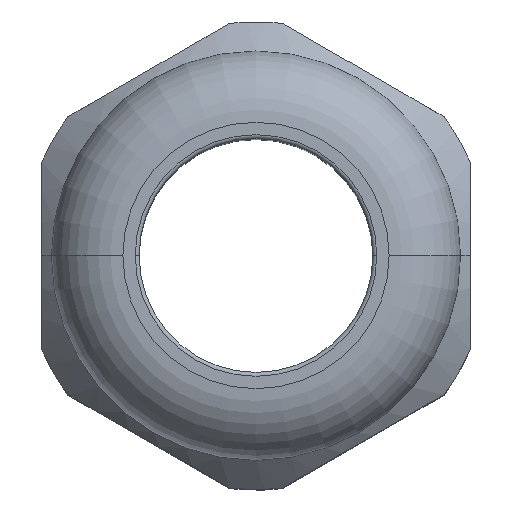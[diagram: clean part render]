
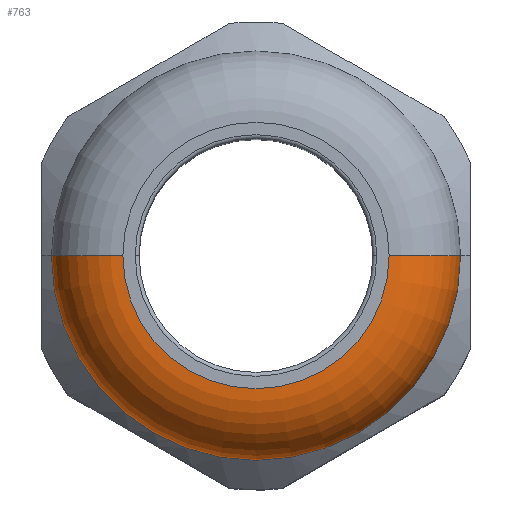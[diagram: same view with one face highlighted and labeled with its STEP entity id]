
A CAD part, top view. The second image highlights one B-rep face of the part: STEP entity #763.
In plain terms, the highlighted toroidal (fillet/blend) face has major radius 10.25 mm and minor radius 5.5 mm.
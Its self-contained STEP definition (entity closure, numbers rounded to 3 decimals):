
#178 = EDGE_CURVE ( 'NONE', #413, #208, #1253, .T. ) ;
#189 = EDGE_CURVE ( 'NONE', #364, #274, #1271, .T. ) ;
#208 = VERTEX_POINT ( 'NONE', #1279 ) ;
#274 = VERTEX_POINT ( 'NONE', #1332 ) ;
#364 = VERTEX_POINT ( 'NONE', #1333 ) ;
#413 = VERTEX_POINT ( 'NONE', #1351 ) ;
#705 = ORIENTED_EDGE ( 'NONE', *, *, #756, .F. ) ;
#735 = ORIENTED_EDGE ( 'NONE', *, *, #736, .T. ) ;
#736 = EDGE_CURVE ( 'NONE', #364, #413, #1428, .T. ) ;
#737 = ORIENTED_EDGE ( 'NONE', *, *, #178, .T. ) ;
#756 = EDGE_CURVE ( 'NONE', #274, #208, #1532, .T. ) ;
#763 = ADVANCED_FACE ( 'NONE', ( #1568 ), #1565, .T. ) ;
#764 = EDGE_LOOP ( 'NONE', ( #765, #735, #737, #705 ) ) ;
#765 = ORIENTED_EDGE ( 'NONE', *, *, #189, .F. ) ;
#1239 = DIRECTION ( 'NONE',  ( 0., 1., 0. ) ) ;
#1240 = CARTESIAN_POINT ( 'NONE',  ( 10.25, 0., 39.5 ) ) ;
#1241 = AXIS2_PLACEMENT_3D ( 'NONE', #1240, #1239, #1308 ) ;
#1247 = CARTESIAN_POINT ( 'NONE',  ( -10.25, 0., 39.5 ) ) ;
#1248 = AXIS2_PLACEMENT_3D ( 'NONE', #1247, #1262, #1261 ) ;
#1253 = CIRCLE ( 'NONE', #1248, 5.5 ) ;
#1261 = DIRECTION ( 'NONE',  ( 0., 0., -1. ) ) ;
#1262 = DIRECTION ( 'NONE',  ( 0., -1., 0. ) ) ;
#1271 = CIRCLE ( 'NONE', #1241, 5.5 ) ;
#1279 = CARTESIAN_POINT ( 'NONE',  ( -15.75, 0., 39.5 ) ) ;
#1308 = DIRECTION ( 'NONE',  ( -1., 0., 0. ) ) ;
#1332 = CARTESIAN_POINT ( 'NONE',  ( 15.75, 0., 39.5 ) ) ;
#1333 = CARTESIAN_POINT ( 'NONE',  ( 10.25, 0., 45. ) ) ;
#1351 = CARTESIAN_POINT ( 'NONE',  ( -10.25, 0., 45. ) ) ;
#1428 = CIRCLE ( 'NONE', #1477, 10.25 ) ;
#1459 = DIRECTION ( 'NONE',  ( -1., 0., 0. ) ) ;
#1460 = DIRECTION ( 'NONE',  ( 0., 0., -1. ) ) ;
#1470 = CARTESIAN_POINT ( 'NONE',  ( 0., 0., 45. ) ) ;
#1477 = AXIS2_PLACEMENT_3D ( 'NONE', #1470, #1460, #1459 ) ;
#1524 = DIRECTION ( 'NONE',  ( -1., 0., 0. ) ) ;
#1525 = DIRECTION ( 'NONE',  ( 0., 0., -1. ) ) ;
#1526 = CARTESIAN_POINT ( 'NONE',  ( 0., 0., 39.5 ) ) ;
#1527 = AXIS2_PLACEMENT_3D ( 'NONE', #1526, #1525, #1524 ) ;
#1532 = CIRCLE ( 'NONE', #1527, 15.75 ) ;
#1564 = DIRECTION ( 'NONE',  ( -1., 0., 0. ) ) ;
#1565 = TOROIDAL_SURFACE ( 'NONE', #1567, 10.25, 5.5 ) ;
#1567 = AXIS2_PLACEMENT_3D ( 'NONE', #1569, #1570, #1564 ) ;
#1568 = FACE_OUTER_BOUND ( 'NONE', #764, .T. ) ;
#1569 = CARTESIAN_POINT ( 'NONE',  ( 0., 0., 39.5 ) ) ;
#1570 = DIRECTION ( 'NONE',  ( 0., 0., -1. ) ) ;
